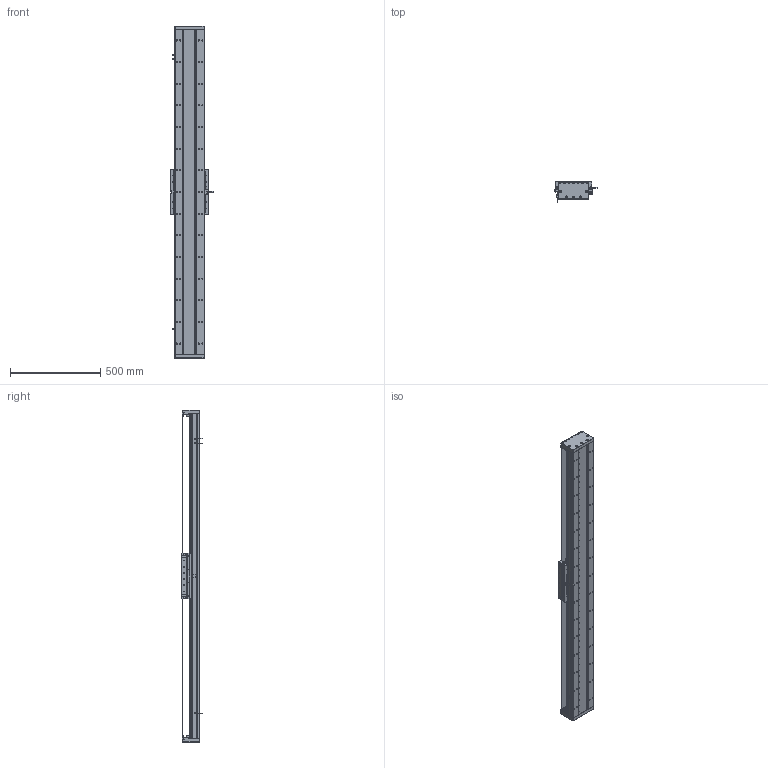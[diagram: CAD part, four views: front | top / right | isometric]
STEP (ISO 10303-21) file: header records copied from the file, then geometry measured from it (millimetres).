
FILE_DESCRIPTION (( 'STEP AP203' ), '1' );
FILE_NAME ('DA-C165-C3-T1500-C010-0.2 直线电机.STEP', '2023-06-13T08:47:01', ( '微软用户' ), ( '微软中国' ), 'SwSTEP 2.0', 'SolidWorks 2019', '' );
FILE_SCHEMA (( 'CONFIG_CONTROL_DESIGN' ));
Length unit declared in the file: millimetre
Products named in the file (18): 复件 DA165-GYP-00 光电感应片^DA-C165-C3-T-C010-0.2-N 直线电机; 葩璃 CKM01-W075-TRL^DA-C165-C3-T-C010-0.2-N 眻盄萇儂; 复件 DA165-GDYK-00 钢带压块^复件 CU165钢带组件_DA-C165-C3-T-C010-0.2-N 直线电机; 复件 CU165 底座^IU-CU165-L 底座导轨_L1800; 葩璃 PM-T45^DA-C165-C3-T-C010-0.2-N 眻盄萇儂; DA-C165-C3-T1500-C010-0.2 眻盄萇儂; 葩璃 CKM03-W075-C1C2-TP-3.0^DA-C165-C3-T-C010-0.2-N 眻盄萇儂; 复件 DA165-GD-1860-002-00 钢带盖板^复件 CU165钢带组件_DA-C165-C3-T-C010-0.2-N 直线电机; 复件 DA95-HXJ-00 缓冲橡胶^DA-C165-C3-T-C010-0.2-N 直线电机; 复件 DMA-010-0.2 读数头^DA-C165-C3-T-C010-0.2-N 直线电机; 复件 XD-U-02L 磁栅尺^DA-C165-C3-T-C010-0.2-N 直线电机_T; IU-CU165-L 菁釱絳寢; 复件 六角薄螺母 M3^DA-C165-C3-T-C010-0.2-N 直线电机_GB_FASTENER_NUT_STNAB M3-C; 葩璃 DA95-GT-T-00^IU-CU165-L 菁釱絳寢_T; 复件 DA165-GD-DG-H-00 端盖^复件 CU165钢带组件_DA-C165-C3-T-C010-0.2-N 直线电机; 珨极趙賑雄怢啣C3-wf; 复件 CU165钢带组件^DA-C165-C3-T-C010-0.2-N 直线电机; 复件 DA165-GDLK-00 钢带拉块^复件 CU165钢带组件_DA-C165-C3-T-C010-0.2-N 直线电机
Assembly tree (35 placements, depth 3):
  DA-C165-C3-T1500-C010-0.2 眻盄萇儂
    IU-CU165-L 菁釱絳寢
      复件 CU165 底座^IU-CU165-L 底座导轨_L1800
      葩璃 DA95-GT-T-00^IU-CU165-L 菁釱絳寢_T  x4
    复件 XD-U-02L 磁栅尺^DA-C165-C3-T-C010-0.2-N 直线电机_T
    葩璃 PM-T45^DA-C165-C3-T-C010-0.2-N 眻盄萇儂  x3
    葩璃 CKM01-W075-TRL^DA-C165-C3-T-C010-0.2-N 眻盄萇儂
    复件 CU165钢带组件^DA-C165-C3-T-C010-0.2-N 直线电机
      复件 DA165-GD-DG-H-00 端盖^复件 CU165钢带组件_DA-C165-C3-T-C010-0.2-N 直线电机  x2
      复件 DA165-GDYK-00 钢带压块^复件 CU165钢带组件_DA-C165-C3-T-C010-0.2-N 直线电机  x2
      复件 DA165-GD-1860-002-00 钢带盖板^复件 CU165钢带组件_DA-C165-C3-T-C010-0.2-N 直线电机
      复件 DA165-GDLK-00 钢带拉块^复件 CU165钢带组件_DA-C165-C3-T-C010-0.2-N 直线电机  x2
    复件 DA95-HXJ-00 缓冲橡胶^DA-C165-C3-T-C010-0.2-N 直线电机  x4
    复件 DA165-GYP-00 光电感应片^DA-C165-C3-T-C010-0.2-N 直线电机
    复件 DMA-010-0.2 读数头^DA-C165-C3-T-C010-0.2-N 直线电机
    葩璃 CKM03-W075-C1C2-TP-3.0^DA-C165-C3-T-C010-0.2-N 眻盄萇儂
    复件 六角薄螺母 M3^DA-C165-C3-T-C010-0.2-N 直线电机_GB_FASTENER_NUT_STNAB M3-C  x8
    珨极趙賑雄怢啣C3-wf
Bounding box: 233 x 111.45 x 1840 mm (x, y, z)
Volume: 11394820.4 mm3; surface area: 3274150.3 mm2
Topology: 72 solids, 122 shells, 3958 faces, 10955 edges, 6860 vertices
Faces by surface type: cylinder 2144, plane 1188, cone 576, torus 46, sphere 4
Entity records: 123261 total; most frequent: CARTESIAN_POINT 31377, DIRECTION 18805, ORIENTED_EDGE 18662, EDGE_CURVE 9331, AXIS2_PLACEMENT_3D 7192, VERTEX_POINT 6048, EDGE_LOOP 4429, LINE 4421
